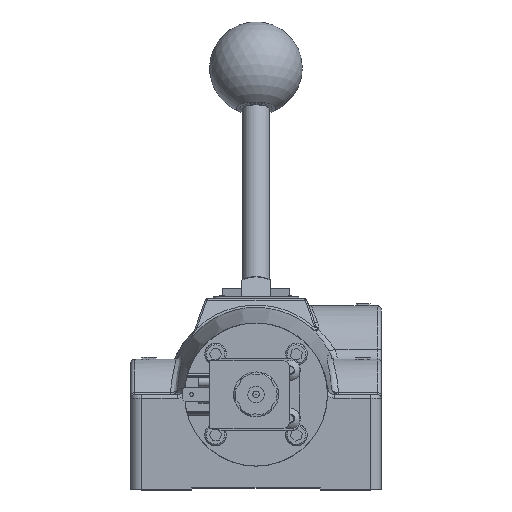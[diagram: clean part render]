
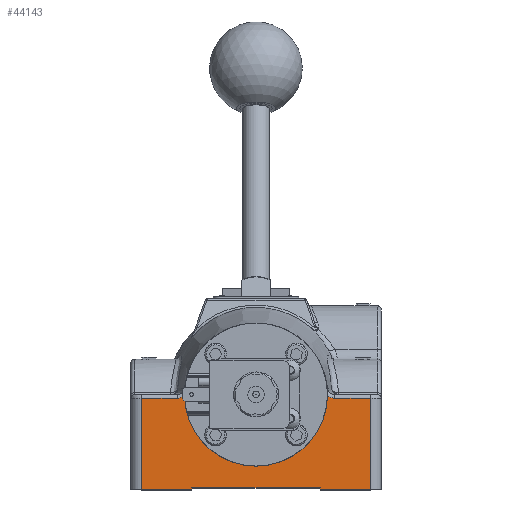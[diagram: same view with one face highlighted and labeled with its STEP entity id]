
A CAD part, top view. The second image highlights one B-rep face of the part: STEP entity #44143.
In plain terms, the highlighted planar face has unit normal (0, 0, 1).
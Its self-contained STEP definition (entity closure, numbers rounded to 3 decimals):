
#1342=B_SPLINE_CURVE_WITH_KNOTS('',3,(#76330,#76331,#76332,#76333,#76334),
 .UNSPECIFIED.,.F.,.F.,(4,1,4),(0.,0.291,0.347),
 .UNSPECIFIED.);
#1350=B_SPLINE_CURVE_WITH_KNOTS('',3,(#76517,#76518,#76519,#76520),
 .UNSPECIFIED.,.F.,.F.,(4,4),(0.356,0.703),
 .UNSPECIFIED.);
#2915=PLANE('',#47548);
#4685=FACE_OUTER_BOUND('',#7408,.T.);
#7408=EDGE_LOOP('',(#32504,#32505,#32506,#32507,#32508,#32509,#32510,#32511,
#32512,#32513,#32514,#32515));
#10082=CIRCLE('',#47419,3.178);
#12075=LINE('',#74953,#14725);
#12141=LINE('',#76096,#14791);
#12146=LINE('',#76109,#14796);
#12149=LINE('',#76113,#14799);
#12150=LINE('',#76115,#14800);
#12162=LINE('',#76167,#14812);
#12168=LINE('',#76224,#14818);
#12170=LINE('',#76398,#14820);
#12178=LINE('',#76644,#14828);
#14725=VECTOR('',#53946,1.);
#14791=VECTOR('',#54198,1.);
#14796=VECTOR('',#54211,1.);
#14799=VECTOR('',#54216,1.);
#14800=VECTOR('',#54219,1.);
#14812=VECTOR('',#54259,1.);
#14818=VECTOR('',#54337,1.);
#14820=VECTOR('',#54345,1.);
#14828=VECTOR('',#54441,1.);
#18031=VERTEX_POINT('',#74937);
#18037=VERTEX_POINT('',#74951);
#18094=VERTEX_POINT('',#76093);
#18095=VERTEX_POINT('',#76095);
#18097=VERTEX_POINT('',#76105);
#18099=VERTEX_POINT('',#76108);
#18116=VERTEX_POINT('',#76166);
#18130=VERTEX_POINT('',#76220);
#18134=VERTEX_POINT('',#76302);
#18139=VERTEX_POINT('',#76391);
#18142=VERTEX_POINT('',#76396);
#18165=VERTEX_POINT('',#76512);
#22784=EDGE_CURVE('',#18031,#18037,#12075,.T.);
#22909=EDGE_CURVE('',#18095,#18094,#12141,.T.);
#22915=EDGE_CURVE('',#18099,#18097,#12146,.T.);
#22918=EDGE_CURVE('',#18037,#18095,#12149,.T.);
#22919=EDGE_CURVE('',#18094,#18099,#12150,.T.);
#22941=EDGE_CURVE('',#18031,#18116,#12162,.T.);
#22970=EDGE_CURVE('',#18116,#18130,#12168,.T.);
#22975=EDGE_CURVE('',#18130,#18134,#1342,.T.);
#22984=EDGE_CURVE('',#18142,#18139,#12170,.T.);
#23021=EDGE_CURVE('',#18165,#18142,#1350,.T.);
#23033=EDGE_CURVE('',#18139,#18097,#12178,.T.);
#23094=EDGE_CURVE('',#18134,#18165,#10082,.T.);
#32504=ORIENTED_EDGE('',*,*,#22915,.T.);
#32505=ORIENTED_EDGE('',*,*,#23033,.F.);
#32506=ORIENTED_EDGE('',*,*,#22984,.F.);
#32507=ORIENTED_EDGE('',*,*,#23021,.F.);
#32508=ORIENTED_EDGE('',*,*,#23094,.F.);
#32509=ORIENTED_EDGE('',*,*,#22975,.F.);
#32510=ORIENTED_EDGE('',*,*,#22970,.F.);
#32511=ORIENTED_EDGE('',*,*,#22941,.F.);
#32512=ORIENTED_EDGE('',*,*,#22784,.T.);
#32513=ORIENTED_EDGE('',*,*,#22918,.T.);
#32514=ORIENTED_EDGE('',*,*,#22909,.T.);
#32515=ORIENTED_EDGE('',*,*,#22919,.T.);
#44143=ADVANCED_FACE('',(#4685),#2915,.T.);
#47419=AXIS2_PLACEMENT_3D('',#77280,#54515,#54516);
#47548=AXIS2_PLACEMENT_3D('',#92035,#54985,#54986);
#53946=DIRECTION('',(1.,0.,0.));
#54198=DIRECTION('',(1.,0.,0.));
#54211=DIRECTION('',(1.,0.,0.));
#54216=DIRECTION('',(0.,1.,0.));
#54219=DIRECTION('',(0.,-1.,0.));
#54259=DIRECTION('',(0.,1.,0.));
#54337=DIRECTION('',(1.,0.,0.));
#54345=DIRECTION('',(1.,0.,0.));
#54441=DIRECTION('',(0.,-1.,0.));
#54515=DIRECTION('center_axis',(0.,0.,1.));
#54516=DIRECTION('ref_axis',(-1.,0.,0.));
#54985=DIRECTION('center_axis',(0.,0.,1.));
#54986=DIRECTION('ref_axis',(1.,0.,0.));
#74937=CARTESIAN_POINT('',(-5.08,-4.207,8.652));
#74951=CARTESIAN_POINT('',(-2.858,-4.207,8.652));
#74953=CARTESIAN_POINT('',(0.,-4.207,8.652));
#76093=CARTESIAN_POINT('',(2.858,-4.128,8.652));
#76095=CARTESIAN_POINT('',(-2.858,-4.128,8.652));
#76096=CARTESIAN_POINT('',(0.,-4.128,8.652));
#76105=CARTESIAN_POINT('',(5.08,-4.207,8.652));
#76108=CARTESIAN_POINT('',(2.858,-4.207,8.652));
#76109=CARTESIAN_POINT('',(0.,-4.207,8.652));
#76113=CARTESIAN_POINT('',(-2.858,-4.247,8.652));
#76115=CARTESIAN_POINT('',(2.858,-4.247,8.652));
#76166=CARTESIAN_POINT('',(-5.08,-0.159,8.652));
#76167=CARTESIAN_POINT('',(-5.08,-3.215,8.652));
#76220=CARTESIAN_POINT('',(-3.497,-0.159,8.652));
#76224=CARTESIAN_POINT('',(0.,-0.159,8.652));
#76302=CARTESIAN_POINT('',(-3.177,-0.037,8.652));
#76330=CARTESIAN_POINT('Ctrl Pts',(-3.497,-0.159,
8.652));
#76331=CARTESIAN_POINT('Ctrl Pts',(-3.4,-0.159,
8.652));
#76332=CARTESIAN_POINT('Ctrl Pts',(-3.283,-0.122,
8.652));
#76333=CARTESIAN_POINT('Ctrl Pts',(-3.192,-0.05,
8.652));
#76334=CARTESIAN_POINT('Ctrl Pts',(-3.178,-0.037,
8.652));
#76391=CARTESIAN_POINT('',(5.08,-0.159,8.652));
#76396=CARTESIAN_POINT('',(3.497,-0.159,8.652));
#76398=CARTESIAN_POINT('',(0.,-0.159,8.652));
#76512=CARTESIAN_POINT('',(3.177,-0.037,8.652));
#76517=CARTESIAN_POINT('Ctrl Pts',(3.178,-0.037,
8.652));
#76518=CARTESIAN_POINT('Ctrl Pts',(3.265,-0.114,
8.652));
#76519=CARTESIAN_POINT('Ctrl Pts',(3.381,-0.159,
8.652));
#76520=CARTESIAN_POINT('Ctrl Pts',(3.497,-0.159,
8.652));
#76644=CARTESIAN_POINT('',(5.08,-3.215,8.652));
#77280=CARTESIAN_POINT('Origin',(0.,0.,8.652));
#92035=CARTESIAN_POINT('Origin',(0.,-4.286,8.652));
